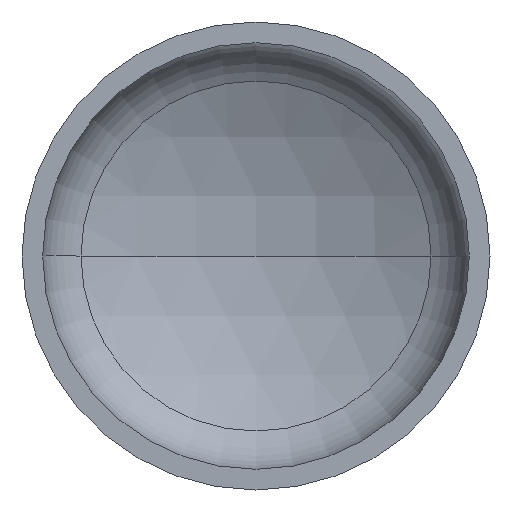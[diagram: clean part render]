
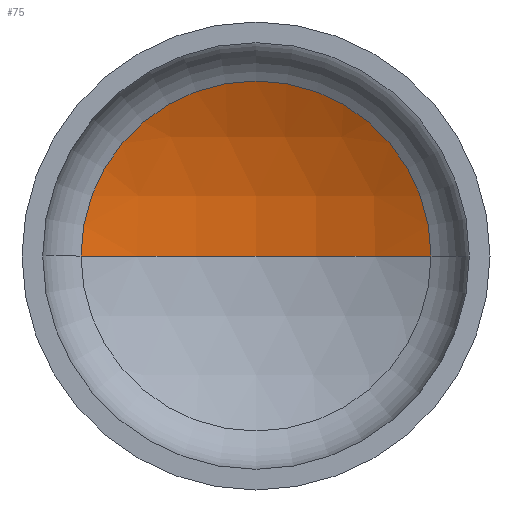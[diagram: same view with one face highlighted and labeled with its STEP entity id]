
A CAD part, front view. The second image highlights one B-rep face of the part: STEP entity #75.
In plain terms, the highlighted spherical face has radius 1120 mm.
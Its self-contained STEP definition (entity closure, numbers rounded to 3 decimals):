
#5 = VERTEX_POINT ( 'NONE', #345 ) ;
#13 = ORIENTED_EDGE ( 'NONE', *, *, #200, .T. ) ;
#46 = FACE_OUTER_BOUND ( 'NONE', #166, .T. ) ;
#75 = ADVANCED_FACE ( 'NONE', ( #46 ), #228, .F. ) ;
#78 = ORIENTED_EDGE ( 'NONE', *, *, #196, .T. ) ;
#79 = AXIS2_PLACEMENT_3D ( 'NONE', #217, #255, #254 ) ;
#84 = AXIS2_PLACEMENT_3D ( 'NONE', #167, #160, #162 ) ;
#87 = AXIS2_PLACEMENT_3D ( 'NONE', #343, #164, #120 ) ;
#120 = DIRECTION ( 'NONE',  ( 1., 0., 0. ) ) ;
#148 = AXIS2_PLACEMENT_3D ( 'NONE', #233, #205, #269 ) ;
#151 = VERTEX_POINT ( 'NONE', #189 ) ;
#160 = DIRECTION ( 'NONE',  ( 0., 0., -1. ) ) ;
#162 = DIRECTION ( 'NONE',  ( -1., 0., 0. ) ) ;
#164 = DIRECTION ( 'NONE',  ( 0., -1., 0. ) ) ;
#166 = EDGE_LOOP ( 'NONE', ( #310, #13, #78 ) ) ;
#167 = CARTESIAN_POINT ( 'NONE',  ( 0., -680.06, 0. ) ) ;
#176 = CARTESIAN_POINT ( 'NONE',  ( 523.492, 310.07, 0. ) ) ;
#187 = VERTEX_POINT ( 'NONE', #176 ) ;
#189 = CARTESIAN_POINT ( 'NONE',  ( -523.492, 310.07, 0. ) ) ;
#196 = EDGE_CURVE ( 'NONE', #187, #151, #338, .T. ) ;
#200 = EDGE_CURVE ( 'NONE', #5, #187, #260, .T. ) ;
#202 = EDGE_CURVE ( 'NONE', #5, #151, #408, .T. ) ;
#205 = DIRECTION ( 'NONE',  ( 0., 0., -1. ) ) ;
#217 = CARTESIAN_POINT ( 'NONE',  ( 0., -680.06, 0. ) ) ;
#228 = SPHERICAL_SURFACE ( 'NONE', #148, 1120. ) ;
#233 = CARTESIAN_POINT ( 'NONE',  ( 0., -680.06, 0. ) ) ;
#254 = DIRECTION ( 'NONE',  ( 1., 0., 0. ) ) ;
#255 = DIRECTION ( 'NONE',  ( 0., 0., 1. ) ) ;
#260 = CIRCLE ( 'NONE', #84, 1120. ) ;
#269 = DIRECTION ( 'NONE',  ( -1., 0., 0. ) ) ;
#310 = ORIENTED_EDGE ( 'NONE', *, *, #202, .F. ) ;
#338 = CIRCLE ( 'NONE', #87, 523.492 ) ;
#343 = CARTESIAN_POINT ( 'NONE',  ( 0., 310.07, 0. ) ) ;
#345 = CARTESIAN_POINT ( 'NONE',  ( 0., 439.94, 0. ) ) ;
#408 = CIRCLE ( 'NONE', #79, 1120. ) ;
